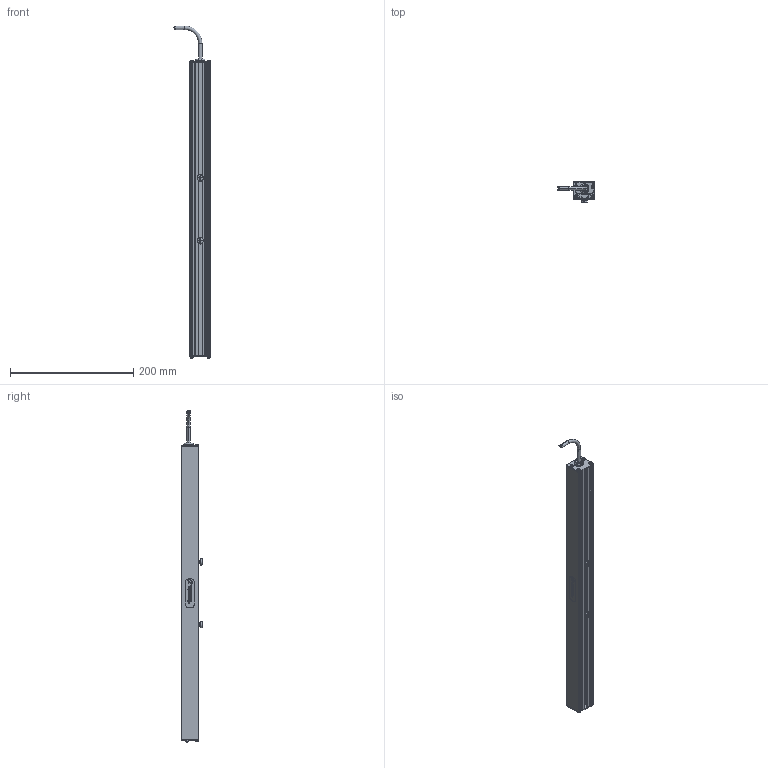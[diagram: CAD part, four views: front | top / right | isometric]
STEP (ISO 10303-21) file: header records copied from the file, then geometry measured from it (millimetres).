
FILE_DESCRIPTION (( 'STEP AP214' ), '1' );
FILE_NAME ('LL174 _NONSELAED__LL17418.stp', '2021-04-29T15:30:21', ( '' ), ( '' ), 'SwSTEP 2.0', 'SolidWorks 2018', '' );
FILE_SCHEMA (( 'AUTOMOTIVE_DESIGN' ));
Length unit declared in the file: inch
Products named in the file (12): 091053; 092408_TRUNCATED; 090928-XXX_090928-018; CHM6x8_91460A312; 116-02-006; HN-M6_90592A016; 093145_93701A253; 1157 (no strap); 116-02-007; 096591-XX_096591-18; LL174 _NONSELAED__LL17418
Assembly tree (21 placements, depth 3):
  LL174 _NONSELAED__LL17418
    096591-XX_096591-18
    116-02-007
    1157 (no strap)
    093145_93701A253  x8
    HN-M6_90592A016  x2
    CHM6x8_91460A312  x2
    090928-XXX_090928-018
    116-02-006
    091053  x2
      091053
    092408_TRUNCATED
Bounding box: 60.69 x 35.06 x 538.66 mm (x, y, z)
Volume: 167716.4 mm3; surface area: 168426.8 mm2
Topology: 28 solids, 28 shells, 1802 faces, 4720 edges, 2983 vertices
Faces by surface type: cylinder 839, plane 545, cone 249, bspline 102, torus 59, sphere 8
Entity records: 31047 total; most frequent: CARTESIAN_POINT 9882, ORIENTED_EDGE 3780, DIRECTION 3351, EDGE_CURVE 1890, VERTEX_POINT 1228, AXIS2_PLACEMENT_3D 1132, VECTOR 1087, LINE 1087
